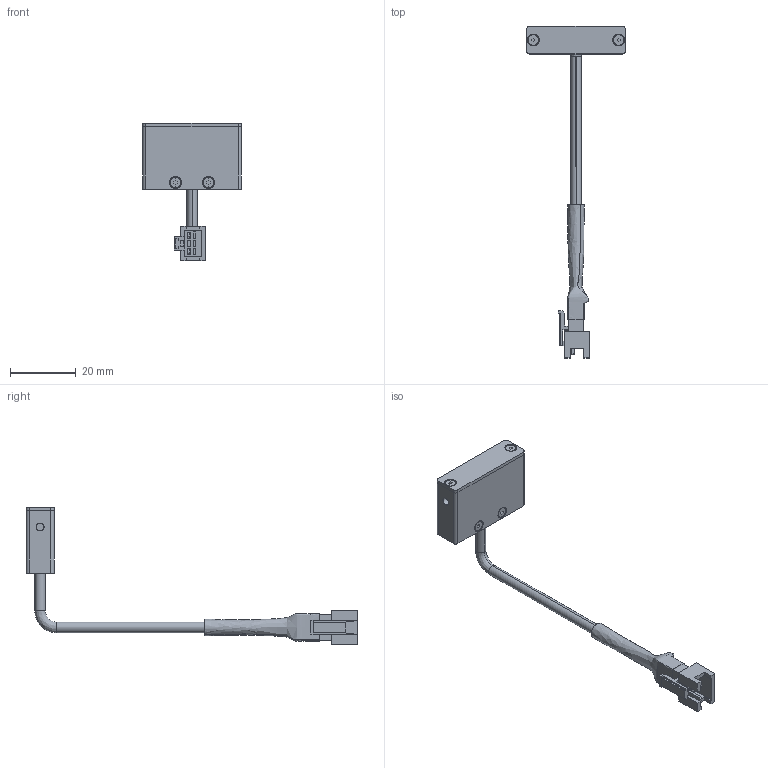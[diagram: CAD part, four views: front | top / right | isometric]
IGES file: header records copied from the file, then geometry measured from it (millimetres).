
Start section: SolidWorks IGES file using analytic representation for surfaces
Global section: file name: C:\Users\88691\Desktop\VBAU-193W\20250401 版本 (定案)\PZ-VBAU193 _ Drawing _ T1291A_A00100.IGS; native system: SolidWorks 2020; preprocessor: SolidWorks 2020; author: 88691; date: 250603.113757; units: millimetre
Bounding box: 30 x 100.8 x 41.75 mm (x, y, z)
Surface area: 9476.3 mm2 (no closed solid volume)
Topology: 0 solids, 0 shells, 450 faces, 4290 edges, 4290 vertices
Faces by surface type: bspline 268, revolution 182
